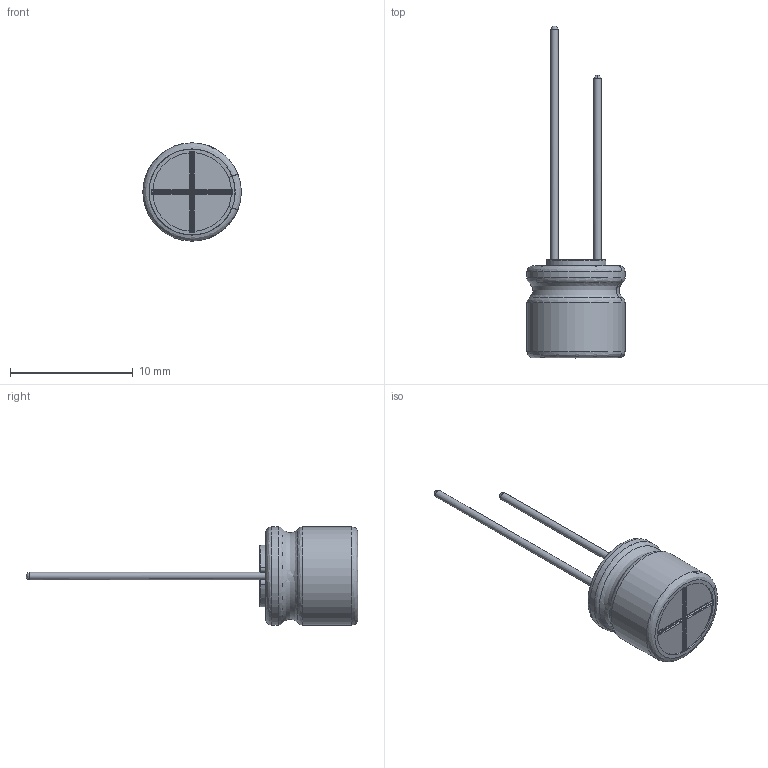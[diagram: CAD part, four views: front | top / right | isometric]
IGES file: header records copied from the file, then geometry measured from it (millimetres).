
Start section: JAMA-IS VERSION  1.0
Bounding box: 7.99 x 27 x 8 mm (x, y, z)
Surface area: 779.8 mm2 (no closed solid volume)
Topology: 0 solids, 0 shells, 115 faces, 1347 edges, 1328 vertices
Faces by surface type: bspline 115
